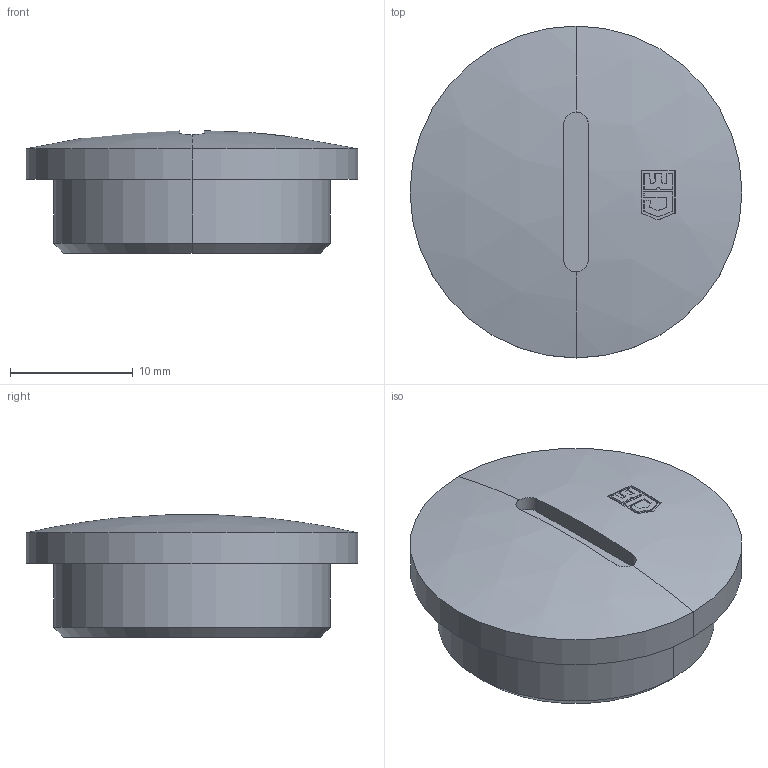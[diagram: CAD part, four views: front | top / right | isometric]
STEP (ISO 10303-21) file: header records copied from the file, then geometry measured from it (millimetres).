
FILE_DESCRIPTION (( 'STEP AP203' ), '1' );
FILE_NAME ('1016 PG.STEP', '2005-11-22T08:06:37', ( ' ' ), ( '' ), 'SwSTEP 2.0', 'SolidWorks 2005278', '' );
FILE_SCHEMA (( 'CONFIG_CONTROL_DESIGN' ));
Length unit declared in the file: millimetre
Products named in the file (1): 1016 PG
Bounding box: 27 x 27 x 9.96 mm (x, y, z)
Volume: 2601.8 mm3; surface area: 2170.2 mm2
Topology: 1 solids, 1 shells, 55 faces, 140 edges, 92 vertices
Faces by surface type: plane 40, cylinder 8, sphere 5, cone 2
Entity records: 1818 total; most frequent: CARTESIAN_POINT 357, DIRECTION 316, ORIENTED_EDGE 280, EDGE_CURVE 140, AXIS2_PLACEMENT_3D 134, VERTEX_POINT 92, CIRCLE 78, EDGE_LOOP 60
